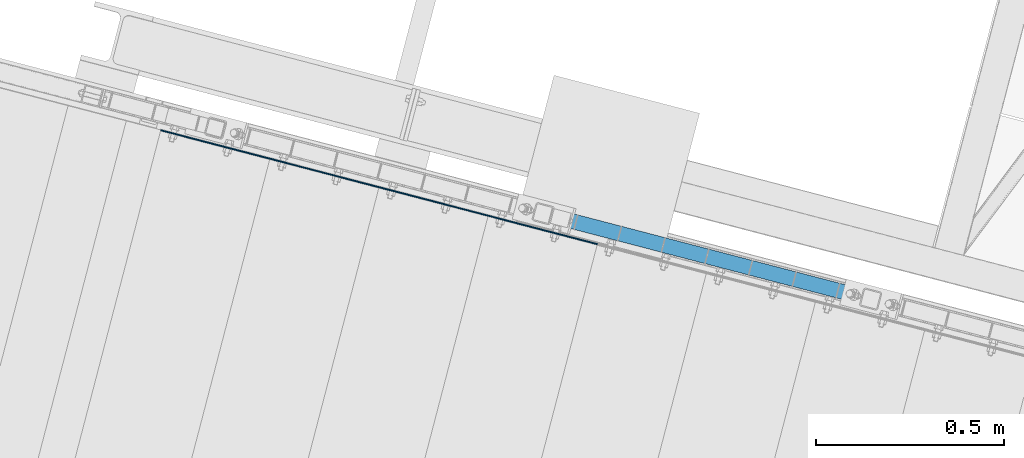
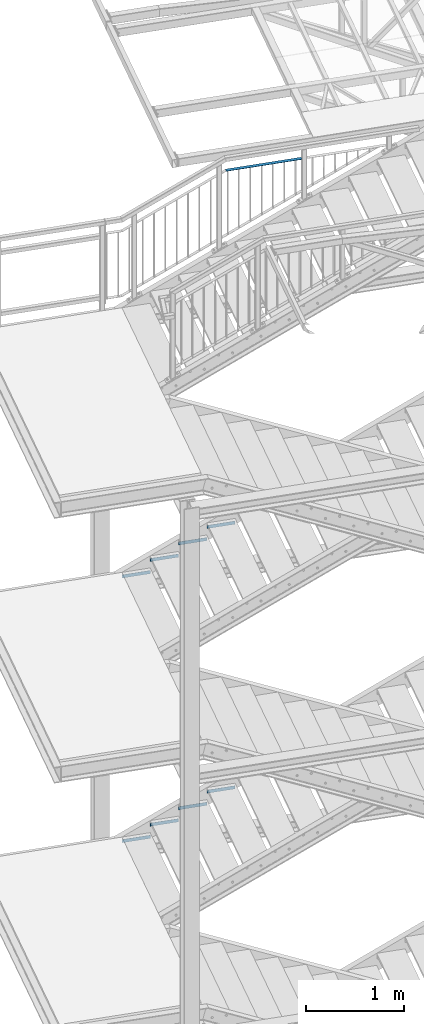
# One storey, part 76 of 169: 9 discrete accessories, 9 elements without a shape of their own.
"""IFC2X3 building model written with IfcOpenShell, lengths in millimetres."""

from ifc_helpers import new_model, si_unit, frame, origin_with_axes, origin_2d_with_axis, place, context, subcontext, project, spatial, polyline, rectangle, outline, extrude, clip, halfspace, material, type_object, element, aggregate, save


model = new_model("IFC2X3")

# Units and contexts
model_context = context("Model", 3, precision=1e-05, world=origin_with_axes())
body_context = subcontext(model_context, "Body", "Model", "MODEL_VIEW")
ifc_project = project(units=[si_unit("LENGTHUNIT", "METRE", prefix="MILLI"), si_unit("AREAUNIT", "SQUARE_METRE"), si_unit("VOLUMEUNIT", "CUBIC_METRE"), si_unit("MASSUNIT", "GRAM", prefix="KILO"), si_unit("TIMEUNIT", "SECOND"), si_unit("PLANEANGLEUNIT", "RADIAN"), si_unit("SOLIDANGLEUNIT", "STERADIAN"), si_unit("THERMODYNAMICTEMPERATUREUNIT", "DEGREE_CELSIUS"), si_unit("LUMINOUSINTENSITYUNIT", "LUMEN")], contexts=[model_context])

# Site, building, storey
site_placement = place(None, origin_with_axes())
site = spatial("IfcSite", under=ifc_project, at=site_placement, Name="Undefined", CompositionType="ELEMENT")
building_placement = place(site_placement, origin_with_axes())
building = spatial("IfcBuilding", under=site, at=building_placement, Name="Undefined", CompositionType="ELEMENT")
storey_placement = place(building_placement, origin_with_axes())
storey = spatial("IfcBuildingStorey", under=building, at=storey_placement, Name="Undefined", CompositionType="ELEMENT", Elevation=0.0)

# Assembly, discrete accessory
assembly_1_placement = place(storey_placement, origin_with_axes())
assembly_1 = element("IfcElementAssembly", 1, at=assembly_1_placement, inside=storey, Name="Steel Assembly", AssemblyPlace="NOTDEFINED", PredefinedType="RIGID_FRAME")
ifc_material_1 = material(Name="STEEL/S235")
discrete_accessory_type_1 = type_object("IfcDiscreteAccessoryType", Name="PORĘCZ")
discrete_accessory_1_placement = place(assembly_1_placement, frame((-25703.7290583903, 8319.86620081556, 13859.9945126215), z_axis=(3.4552000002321e-05, 0.000132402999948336, 0.999999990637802), x_axis=(-0.967563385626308, 0.252628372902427, -1.72000000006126e-07)))
discrete_accessory_1 = element("IfcDiscreteAccessory", 2, at=discrete_accessory_1_placement, type_object=discrete_accessory_type_1, material=ifc_material_1, Name="PORĘCZ", ObjectType="BL40*3", context=body_context, shape_type="Clipping", body=[
    clip(clip(extrude(outline(polyline([(802.09830170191, 20.0000000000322), (802.098301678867, -19.9999999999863), (-0.999999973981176, -20.0000000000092), (-0.999999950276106, 20.0000000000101), (802.09830170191, 20.0000000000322)])), frame((1.81898940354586e-12, -1.77635442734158e-15, -1.50000000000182), z_axis=(0.0, 0.0, 1.0), x_axis=(1.0, 0.0, 0.0)), (0.0, 0.0, 1.0), 3.0), halfspace(frame((802.452403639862, 1.31140609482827e-09, 1.50000001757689), z_axis=(0.973248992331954, -5.59252455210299e-10, -0.229752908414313), x_axis=(0.0, 1.0, 0.0)), False)), halfspace(frame((-0.999999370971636, 999.999999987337, 1.26783561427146e-09), z_axis=(1.0, 0.0, 0.0), x_axis=(-2.54700353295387e-10, 0.0, -1.0)), True)),
])
aggregate(assembly_1, [discrete_accessory_1])

assembly_2_placement = place(storey_placement, origin_with_axes())
assembly_2 = element("IfcElementAssembly", 3, at=assembly_2_placement, inside=storey, Name="Steel Assembly", AssemblyPlace="NOTDEFINED", PredefinedType="RIGID_FRAME")
ifc_material_2 = material(Name="STEEL/S235JR")
discrete_accessory_type_2 = type_object("IfcDiscreteAccessoryType", Name="ANGLE")
discrete_accessory_2_placement = place(assembly_2_placement, frame((-26695.5183217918, 8535.31628158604, 9480.09581681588), z_axis=(-0.252562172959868, -0.967580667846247, 0.0), x_axis=(0.967580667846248, -0.252562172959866, 0.0)))
discrete_accessory_2 = element("IfcDiscreteAccessory", 4, at=discrete_accessory_2_placement, type_object=discrete_accessory_type_2, material=ifc_material_2, Name="ANGLE", ObjectType="3*40", context=body_context, shape_type="SweptSolid", body=[
    extrude(rectangle(XDim=40.0, YDim=3.0, at=origin_2d_with_axis()), frame((300.000000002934, 1.81898940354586e-12, -1.81898940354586e-12), z_axis=(-1.0, -3.46944695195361e-18, -1.38777878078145e-17), x_axis=(1.73472347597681e-18, -1.0, 0.0)), (0.0, 0.0, 1.0), 300.0),
])
aggregate(assembly_2, [discrete_accessory_2])

assembly_3_placement = place(storey_placement, origin_with_axes())
assembly_3 = element("IfcElementAssembly", 5, at=assembly_3_placement, inside=storey, Name="Steel Assembly", AssemblyPlace="NOTDEFINED", PredefinedType="RIGID_FRAME")
discrete_accessory_3_placement = place(assembly_3_placement, frame((-26985.792525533, 8611.084934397, 9330.09581681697), z_axis=(-0.252562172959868, -0.967580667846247, 0.0), x_axis=(0.967580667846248, -0.252562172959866, 0.0)))
discrete_accessory_3 = element("IfcDiscreteAccessory", 6, at=discrete_accessory_3_placement, type_object=discrete_accessory_type_2, material=ifc_material_2, Name="ANGLE", ObjectType="3*40", context=body_context, shape_type="SweptSolid", body=[
    extrude(rectangle(XDim=40.0, YDim=3.0, at=origin_2d_with_axis()), frame((300.000000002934, 1.81898940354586e-12, -1.81898940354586e-12), z_axis=(-1.0, -3.46944695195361e-18, -1.38777878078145e-17), x_axis=(1.73472347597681e-18, -1.0, 0.0)), (0.0, 0.0, 1.0), 300.0),
])
aggregate(assembly_3, [discrete_accessory_3])

assembly_4_placement = place(storey_placement, origin_with_axes())
assembly_4 = element("IfcElementAssembly", 7, at=assembly_4_placement, inside=storey, Name="Steel Assembly", AssemblyPlace="NOTDEFINED", PredefinedType="RIGID_FRAME")
discrete_accessory_4_placement = place(assembly_4_placement, frame((-27276.0667292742, 8686.85358720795, 9180.09581681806), z_axis=(-0.252562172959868, -0.967580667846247, 0.0), x_axis=(0.967580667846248, -0.252562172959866, 0.0)))
discrete_accessory_4 = element("IfcDiscreteAccessory", 8, at=discrete_accessory_4_placement, type_object=discrete_accessory_type_2, material=ifc_material_2, Name="ANGLE", ObjectType="3*40", context=body_context, shape_type="SweptSolid", body=[
    extrude(rectangle(XDim=40.0, YDim=3.0, at=origin_2d_with_axis()), frame((300.000000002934, 1.81898940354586e-12, -1.81898940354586e-12), z_axis=(-1.0, -3.46944695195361e-18, -1.38777878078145e-17), x_axis=(1.73472347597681e-18, -1.0, 0.0)), (0.0, 0.0, 1.0), 300.0),
])
aggregate(assembly_4, [discrete_accessory_4])

assembly_5_placement = place(storey_placement, origin_with_axes())
assembly_5 = element("IfcElementAssembly", 9, at=assembly_5_placement, inside=storey, Name="Steel Assembly", AssemblyPlace="NOTDEFINED", PredefinedType="RIGID_FRAME")
discrete_accessory_5_placement = place(assembly_5_placement, frame((-27566.3409330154, 8762.62224001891, 9030.09581681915), z_axis=(-0.252562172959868, -0.967580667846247, 0.0), x_axis=(0.967580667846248, -0.252562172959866, 0.0)))
discrete_accessory_5 = element("IfcDiscreteAccessory", 10, at=discrete_accessory_5_placement, type_object=discrete_accessory_type_2, material=ifc_material_2, Name="ANGLE", ObjectType="3*40", context=body_context, shape_type="SweptSolid", body=[
    extrude(rectangle(XDim=40.0, YDim=3.0, at=origin_2d_with_axis()), frame((300.000000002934, 1.81898940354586e-12, -1.81898940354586e-12), z_axis=(-1.0, -3.46944695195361e-18, -1.38777878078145e-17), x_axis=(1.73472347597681e-18, -1.0, 0.0)), (0.0, 0.0, 1.0), 300.0),
])
aggregate(assembly_5, [discrete_accessory_5])

assembly_6_placement = place(storey_placement, origin_with_axes())
assembly_6 = element("IfcElementAssembly", 11, at=assembly_6_placement, inside=storey, Name="Steel Assembly", AssemblyPlace="NOTDEFINED", PredefinedType="RIGID_FRAME")
discrete_accessory_6_placement = place(assembly_6_placement, frame((-26695.6323992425, 8534.87936663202, 6180.09584769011), z_axis=(-0.252562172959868, -0.967580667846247, 0.0), x_axis=(0.967580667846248, -0.252562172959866, 0.0)))
discrete_accessory_6 = element("IfcDiscreteAccessory", 12, at=discrete_accessory_6_placement, type_object=discrete_accessory_type_2, material=ifc_material_2, Name="ANGLE", ObjectType="3*40", context=body_context, shape_type="SweptSolid", body=[
    extrude(rectangle(XDim=40.0, YDim=3.0, at=origin_2d_with_axis()), frame((300.000000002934, 1.81898940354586e-12, -1.81898940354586e-12), z_axis=(-1.0, -3.46944695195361e-18, -1.38777878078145e-17), x_axis=(1.73472347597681e-18, -1.0, 0.0)), (0.0, 0.0, 1.0), 300.0),
])
aggregate(assembly_6, [discrete_accessory_6])

assembly_7_placement = place(storey_placement, origin_with_axes())
assembly_7 = element("IfcElementAssembly", 13, at=assembly_7_placement, inside=storey, Name="Steel Assembly", AssemblyPlace="NOTDEFINED", PredefinedType="RIGID_FRAME")
discrete_accessory_7_placement = place(assembly_7_placement, frame((-26985.9066029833, 8610.64801944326, 6030.09584769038), z_axis=(-0.252562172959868, -0.967580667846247, 0.0), x_axis=(0.967580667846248, -0.252562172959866, 0.0)))
discrete_accessory_7 = element("IfcDiscreteAccessory", 14, at=discrete_accessory_7_placement, type_object=discrete_accessory_type_2, material=ifc_material_2, Name="ANGLE", ObjectType="3*40", context=body_context, shape_type="SweptSolid", body=[
    extrude(rectangle(XDim=40.0, YDim=3.0, at=origin_2d_with_axis()), frame((300.000000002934, 1.81898940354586e-12, -1.81898940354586e-12), z_axis=(-1.0, -3.46944695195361e-18, -1.38777878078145e-17), x_axis=(1.73472347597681e-18, -1.0, 0.0)), (0.0, 0.0, 1.0), 300.0),
])
aggregate(assembly_7, [discrete_accessory_7])

assembly_8_placement = place(storey_placement, origin_with_axes())
assembly_8 = element("IfcElementAssembly", 15, at=assembly_8_placement, inside=storey, Name="Steel Assembly", AssemblyPlace="NOTDEFINED", PredefinedType="RIGID_FRAME")
discrete_accessory_8_placement = place(assembly_8_placement, frame((-27276.180806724, 8686.41667225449, 5880.09584769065), z_axis=(-0.252562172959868, -0.967580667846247, 0.0), x_axis=(0.967580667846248, -0.252562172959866, 0.0)))
discrete_accessory_8 = element("IfcDiscreteAccessory", 16, at=discrete_accessory_8_placement, type_object=discrete_accessory_type_2, material=ifc_material_2, Name="ANGLE", ObjectType="3*40", context=body_context, shape_type="SweptSolid", body=[
    extrude(rectangle(XDim=40.0, YDim=3.0, at=origin_2d_with_axis()), frame((300.000000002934, 1.81898940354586e-12, -1.81898940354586e-12), z_axis=(-1.0, -3.46944695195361e-18, -1.38777878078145e-17), x_axis=(1.73472347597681e-18, -1.0, 0.0)), (0.0, 0.0, 1.0), 300.0),
])
aggregate(assembly_8, [discrete_accessory_8])

assembly_9_placement = place(storey_placement, origin_with_axes())
assembly_9 = element("IfcElementAssembly", 17, at=assembly_9_placement, inside=storey, Name="Steel Assembly", AssemblyPlace="NOTDEFINED", PredefinedType="RIGID_FRAME")
discrete_accessory_9_placement = place(assembly_9_placement, frame((-27566.4550104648, 8762.18532506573, 5730.0958476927), z_axis=(-0.252562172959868, -0.967580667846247, 0.0), x_axis=(0.967580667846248, -0.252562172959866, 0.0)))
discrete_accessory_9 = element("IfcDiscreteAccessory", 18, at=discrete_accessory_9_placement, type_object=discrete_accessory_type_2, material=ifc_material_2, Name="ANGLE", ObjectType="3*40", context=body_context, shape_type="SweptSolid", body=[
    extrude(rectangle(XDim=40.0, YDim=3.0, at=origin_2d_with_axis()), frame((300.000000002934, 1.81898940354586e-12, -1.81898940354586e-12), z_axis=(-1.0, -3.46944695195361e-18, -1.38777878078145e-17), x_axis=(1.73472347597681e-18, -1.0, 0.0)), (0.0, 0.0, 1.0), 300.0),
])
aggregate(assembly_9, [discrete_accessory_9])

save(model, "model.ifc")
